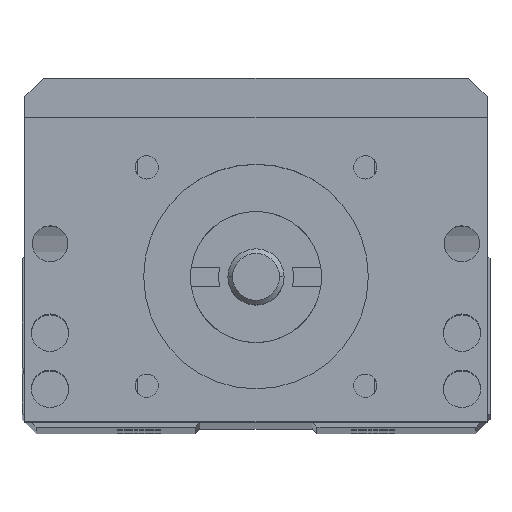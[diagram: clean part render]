
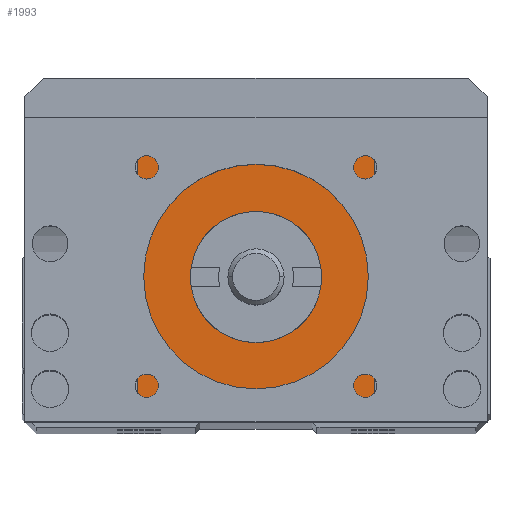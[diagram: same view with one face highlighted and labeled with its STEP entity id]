
A CAD part, top view. The second image highlights one B-rep face of the part: STEP entity #1993.
In plain terms, the highlighted planar face has unit normal (0, 0, 1).
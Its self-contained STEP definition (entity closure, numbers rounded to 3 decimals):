
#1134 = VERTEX_POINT ( 'NONE', #4474 ) ;
#1152 = EDGE_CURVE ( 'NONE', #1134, #1163, #4546, .T. ) ;
#1163 = VERTEX_POINT ( 'NONE', #4540 ) ;
#1973 = ORIENTED_EDGE ( 'NONE', *, *, #2053, .T. ) ;
#1974 = EDGE_LOOP ( 'NONE', ( #1975, #1992 ) ) ;
#1975 = ORIENTED_EDGE ( 'NONE', *, *, #2054, .F. ) ;
#1981 = EDGE_LOOP ( 'NONE', ( #1995, #2051, #2050, #1973 ) ) ;
#1982 = EDGE_CURVE ( 'NONE', #1983, #1986, #6090, .T. ) ;
#1983 = VERTEX_POINT ( 'NONE', #6092 ) ;
#1986 = VERTEX_POINT ( 'NONE', #6081 ) ;
#1992 = ORIENTED_EDGE ( 'NONE', *, *, #1152, .F. ) ;
#1993 = ADVANCED_FACE ( 'NONE', ( #6098, #6078 ), #6141, .F. ) ;
#1994 = VERTEX_POINT ( 'NONE', #6093 ) ;
#1995 = ORIENTED_EDGE ( 'NONE', *, *, #2048, .F. ) ;
#2048 = EDGE_CURVE ( 'NONE', #1983, #2049, #6222, .T. ) ;
#2049 = VERTEX_POINT ( 'NONE', #6213 ) ;
#2050 = ORIENTED_EDGE ( 'NONE', *, *, #2052, .T. ) ;
#2051 = ORIENTED_EDGE ( 'NONE', *, *, #1982, .T. ) ;
#2052 = EDGE_CURVE ( 'NONE', #1986, #1994, #6224, .T. ) ;
#2053 = EDGE_CURVE ( 'NONE', #1994, #2049, #6219, .T. ) ;
#2054 = EDGE_CURVE ( 'NONE', #1163, #1134, #6209, .T. ) ;
#4474 = CARTESIAN_POINT ( 'NONE',  ( 7., 16., 221.5 ) ) ;
#4535 = DIRECTION ( 'NONE',  ( -1., 0., 0. ) ) ;
#4536 = DIRECTION ( 'NONE',  ( 0., 0., 1. ) ) ;
#4537 = CARTESIAN_POINT ( 'NONE',  ( 0., 16., 221.5 ) ) ;
#4540 = CARTESIAN_POINT ( 'NONE',  ( -7., 16., 221.5 ) ) ;
#4546 = CIRCLE ( 'NONE', #4549, 7. ) ;
#4549 = AXIS2_PLACEMENT_3D ( 'NONE', #4537, #4536, #4535 ) ;
#6078 = FACE_BOUND ( 'NONE', #1974, .T. ) ;
#6081 = CARTESIAN_POINT ( 'NONE',  ( 12.7, 33., 221.5 ) ) ;
#6082 = DIRECTION ( 'NONE',  ( 0., 0., -1. ) ) ;
#6083 = CARTESIAN_POINT ( 'NONE',  ( -14.7, 0., 221.5 ) ) ;
#6087 = DIRECTION ( 'NONE',  ( 0., 1., 0. ) ) ;
#6088 = VECTOR ( 'NONE', #6087, 1000. ) ;
#6089 = CARTESIAN_POINT ( 'NONE',  ( 12.7, 33., 221.5 ) ) ;
#6090 = LINE ( 'NONE', #6089, #6088 ) ;
#6092 = CARTESIAN_POINT ( 'NONE',  ( 12.7, 0.5, 221.5 ) ) ;
#6093 = CARTESIAN_POINT ( 'NONE',  ( -12.7, 33., 221.5 ) ) ;
#6098 = FACE_OUTER_BOUND ( 'NONE', #1981, .T. ) ;
#6133 = DIRECTION ( 'NONE',  ( -1., 0., 0. ) ) ;
#6139 = AXIS2_PLACEMENT_3D ( 'NONE', #6083, #6082, #6133 ) ;
#6141 = PLANE ( 'NONE',  #6139 ) ;
#6182 = CARTESIAN_POINT ( 'NONE',  ( 0., 16., 221.5 ) ) ;
#6204 = DIRECTION ( 'NONE',  ( 0., -1., 0. ) ) ;
#6205 = VECTOR ( 'NONE', #6204, 1000. ) ;
#6206 = DIRECTION ( 'NONE',  ( -1., 0., 0. ) ) ;
#6207 = VECTOR ( 'NONE', #6206, 1000. ) ;
#6209 = CIRCLE ( 'NONE', #6210, 7. ) ;
#6210 = AXIS2_PLACEMENT_3D ( 'NONE', #6182, #6270, #6269 ) ;
#6211 = DIRECTION ( 'NONE',  ( -1., 0., 0. ) ) ;
#6212 = VECTOR ( 'NONE', #6211, 1000. ) ;
#6213 = CARTESIAN_POINT ( 'NONE',  ( -12.7, 0.5, 221.5 ) ) ;
#6218 = CARTESIAN_POINT ( 'NONE',  ( -12.7, 0.5, 221.5 ) ) ;
#6219 = LINE ( 'NONE', #6218, #6205 ) ;
#6221 = CARTESIAN_POINT ( 'NONE',  ( -6.008, 0.5, 221.5 ) ) ;
#6222 = LINE ( 'NONE', #6221, #6212 ) ;
#6223 = CARTESIAN_POINT ( 'NONE',  ( -14.7, 33., 221.5 ) ) ;
#6224 = LINE ( 'NONE', #6223, #6207 ) ;
#6269 = DIRECTION ( 'NONE',  ( -1., 0., 0. ) ) ;
#6270 = DIRECTION ( 'NONE',  ( 0., 0., 1. ) ) ;
